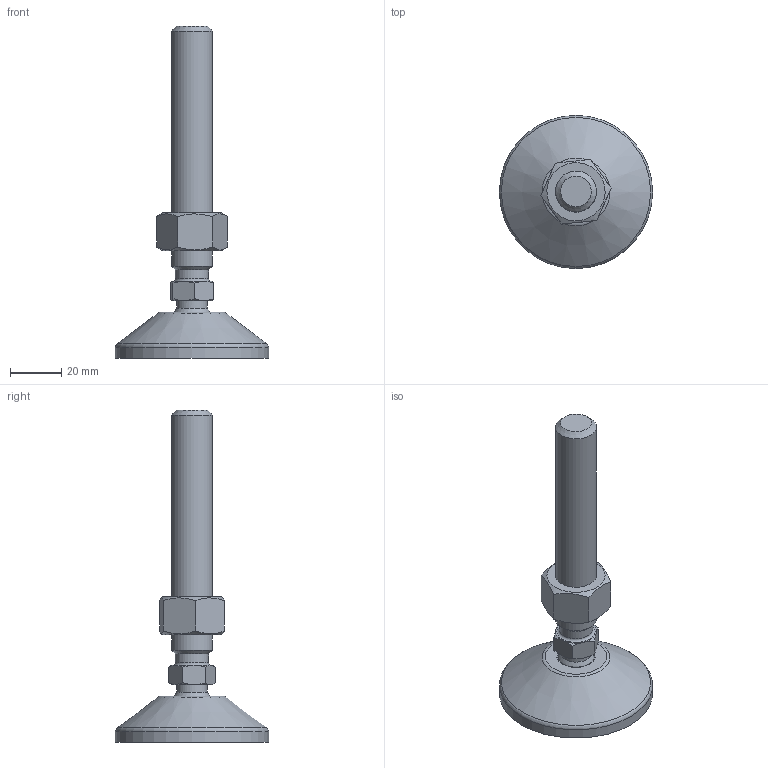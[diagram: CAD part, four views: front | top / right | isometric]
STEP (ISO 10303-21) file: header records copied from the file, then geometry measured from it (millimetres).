
FILE_DESCRIPTION(('STEP AP203'), '1');
FILE_NAME('栖闉罻', '', ('UNSPECIFIED'), ('UNSPECIFIED'), 'C3D Converter', 'C3D Toolkit', '');
FILE_SCHEMA(('CONFIG_CONTROL_DESIGN'));
Length unit declared in the file: millimetre
Products named in the file (4): A00020.116100; A00015.1060
Assembly tree (3 placements, depth 3):
  (unnamed)
    A00020.116100
      (unnamed)
    A00015.1060
Bounding box: 60 x 60 x 130.01 mm (x, y, z)
Volume: 48053.2 mm3; surface area: 18659.5 mm2
Topology: 3 solids, 3 shells, 163 faces, 430 edges, 285 vertices
Faces by surface type: plane 86, cylinder 34, torus 21, cone 20, sphere 2
Full cylindrical faces by diameter (mm): 4 x8, 12 x1, 13 x1, 13.835 x1, 14.3 x1, 15 x2, 15.5 x1, 16 x1, 50.5 x1, 60 x1
Entity records: 8670 total; most frequent: CARTESIAN_POINT 3262, DIRECTION 814, ORIENTED_EDGE 790, EDGE_CURVE 395, AXIS2_PLACEMENT_3D 337, VERTEX_POINT 284, EDGE_LOOP 211, FACE_BOUND 174
